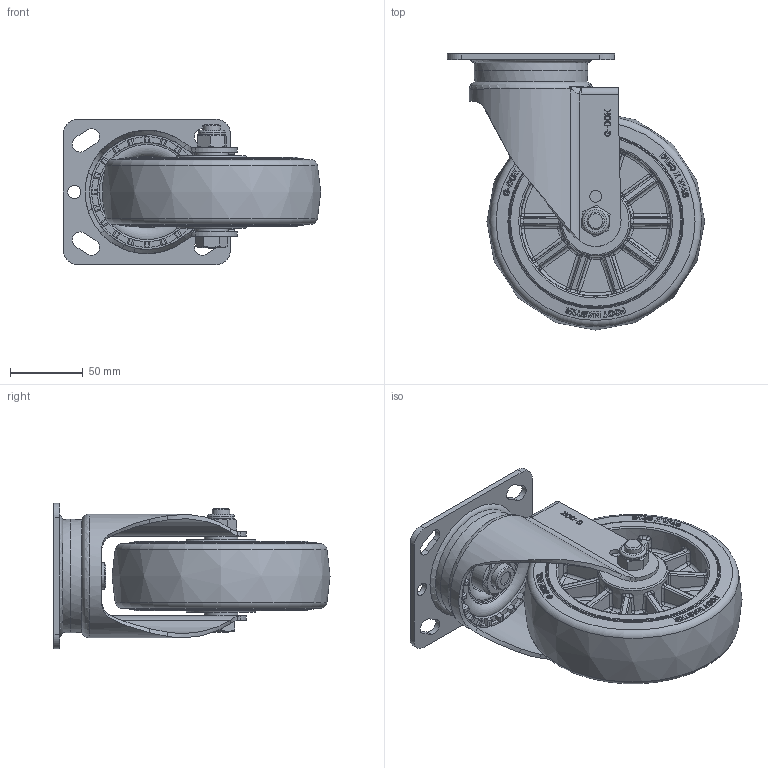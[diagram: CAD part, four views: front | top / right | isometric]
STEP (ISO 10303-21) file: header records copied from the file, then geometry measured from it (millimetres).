
FILE_DESCRIPTION(/* description */ (''),/* implementation_level */ '2;1');
FILE_NAME(/* name */ '\\192.168.10.38\지덕공유\1.기술연구소\2.연구개발 진행중\124.SPH-Series_중하중_2025.02.11\1.도면\2. 3D\홈페이지용\SPH-150-ASF-TUD&HRD.stp',/* time_stamp */ '2026-05-15T17:13:41+09:00',/* author */ ('admin'),/* organization */ ('지덕산업'),/* preprocessor_version */ 'ST-DEVELOPER v18.1',/* originating_system */ 'Autodesk Inventor 2021',/* authorisation */ '');
FILE_SCHEMA (('AUTOMOTIVE_DESIGN { 1 0 10303 214 3 1 1 }'));
Products named in the file (1): SPH-150-ASF-TUD&HRD
Bounding box: 177 x 190 x 100 mm (x, y, z)
Volume: 816841.5 mm3; surface area: 144307.8 mm2
Topology: 1 solids, 1 shells, 1694 faces, 4298 edges, 2702 vertices
Faces by surface type: plane 659, bspline 593, cylinder 218, sphere 80, cone 76, torus 68
Full cylindrical faces by diameter (mm): 8 x2, 9 x2, 10 x1, 12 x1, 18 x2, 18.5 x1, 31 x1, 31.177 x1
Entity records: 63110 total; most frequent: CARTESIAN_POINT 27266, ORIENTED_EDGE 8592, DIRECTION 5646, EDGE_CURVE 4296, VERTEX_POINT 2702, AXIS2_PLACEMENT_3D 1948, EDGE_LOOP 1810, LINE 1750
